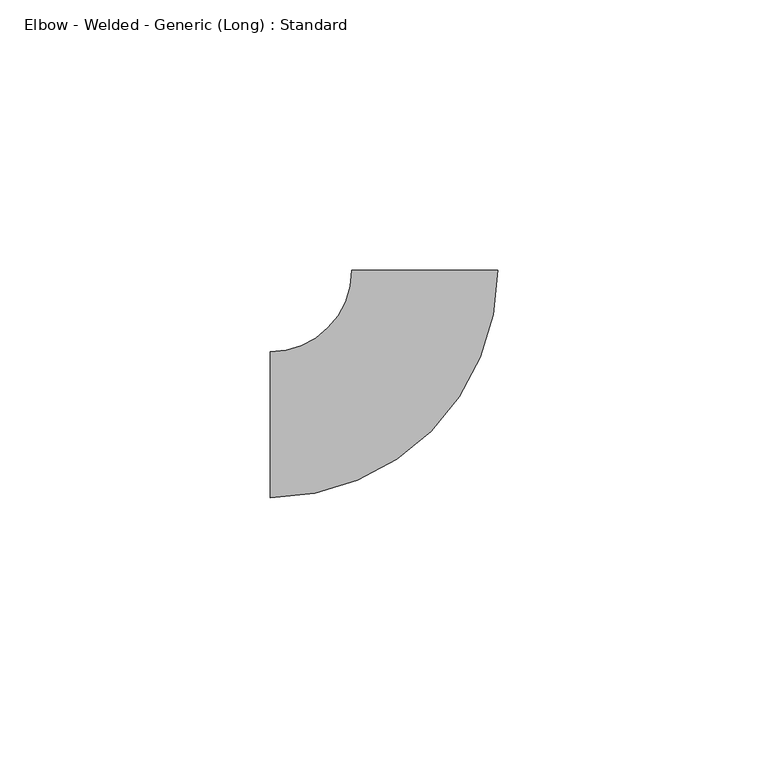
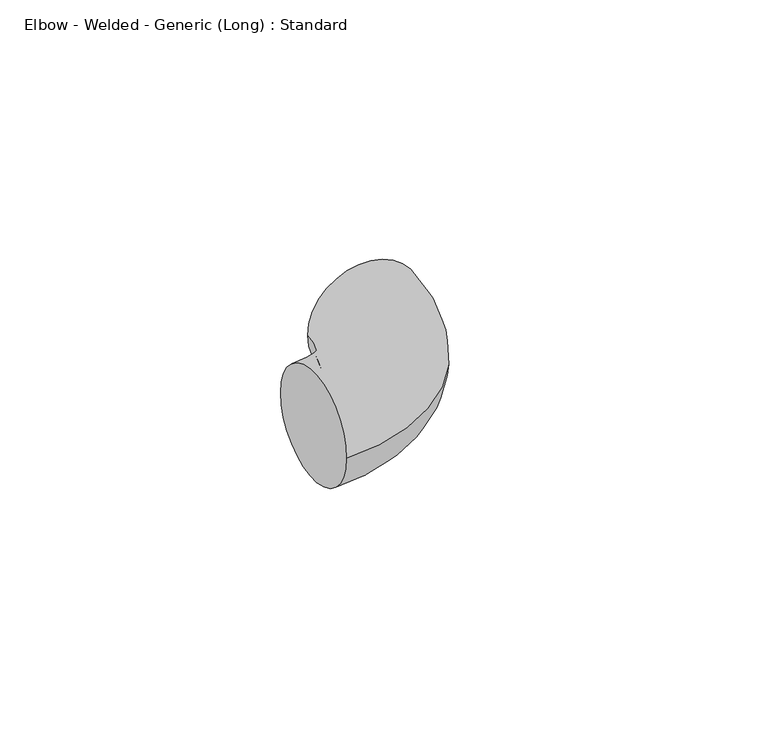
"""IFC4 building model written with IfcOpenShell, lengths in millimetres: pipe fitting geometry, Elbow - Welded - Generic (Long) : Standard."""

from ifc_helpers import new_model, si_unit, point, frame, origin, place, context, project, spatial, circle_curve, ellipse_curve, trimmed, source, transform, mapped, element, save
from ifc_brep_helpers import plane_surface, revolved_surface, advanced_brep


def elbow_welded_generic_long_standard_c0c66d0d(model_context):
    return source(origin(), model_context, "Body", "AdvancedBrep", [
        advanced_brep(
        [(-28.575, -13.49375, 0.0), (-28.575, 13.49375, 0.0), (13.4899295, 28.5768038, 0.0), (-13.4975702, 28.5731957, 0.0)],
        [
            (0, 1, circle_curve(frame((-28.575, 0.0, 0.0), z_axis=(-1.0, 0.0, 0.0), x_axis=(0.0, 1.0, 0.0)), 13.49375)),
            (1, 0, circle_curve(frame((-28.575, 0.0, 0.0), z_axis=(-1.0, 0.0, 0.0), x_axis=(0.0, 1.0, 0.0)), 13.49375)),
            (2, 3, circle_curve(frame((-0.0038203, 28.5749997, 0.0), z_axis=(-0.0001336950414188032, 0.9999999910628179, 0.0), x_axis=(-0.9999999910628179, -0.0001336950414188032, 0.0)), 13.49375)),
            (3, 2, circle_curve(frame((-0.0038203, 28.5749997, 0.0), z_axis=(-0.0001336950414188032, 0.9999999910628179, 0.0), x_axis=(-0.9999999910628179, -0.0001336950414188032, 0.0)), 13.49375)),
            (3, 1, circle_curve(frame((-28.575, 28.5711799, 0.0), z_axis=(0.0, 0.0, -1.0), x_axis=(0.0, -1.0, 0.0)), 15.0774299)),
            (0, 2, circle_curve(frame((-28.575, 28.5711799, 0.0), z_axis=(0.0, 0.0, 1.0), x_axis=(0.0, -1.0, 0.0)), 42.0649299)),
        ],
        [
            plane_surface(frame((-28.575, 0.0, 0.0), z_axis=(-1.0, 0.0, 0.0), x_axis=(0.0, 0.0, 1.0))),
            plane_surface(frame((-0.0038203, 28.5749997, 0.0), z_axis=(-0.0001336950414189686, 0.9999999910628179, 0.0), x_axis=(0.0, 0.0, 1.0))),
            revolved_surface(trimmed(ellipse_curve(frame((-28.575, 0.0, 0.0), z_axis=(-1.0, 0.0, 0.0), x_axis=(0.0, 1.0, 0.0)), 13.49375, 13.49375), [point((-28.575, -13.49375, 0.0))], [point((-28.575, 13.49375, 0.0))], True, "CARTESIAN"), (-28.575, 28.5711799, 0.0), (0.0, 0.0, 1.0)),
            revolved_surface(trimmed(ellipse_curve(frame((-28.575, 0.0, 0.0), z_axis=(-1.0, 0.0, 0.0), x_axis=(0.0, 1.0, 0.0)), 13.49375, 13.49375), [point((-28.575, 13.49375, 0.0))], [point((-28.575, -13.49375, 0.0))], True, "CARTESIAN"), (-28.575, 28.5711799, 0.0), (0.0, 0.0, 1.0)),
        ],
        [
            (0, [[1, 2]]),
            (1, [[3, 4]]),
            (2, [[5, -1, 6, -4]]),
            (3, [[-6, -2, -5, -3]]),
        ],
    ),
    ])


if __name__ == "__main__":
    model = new_model("IFC4")
    model_context = context("Model", 3, world=origin())
    ifc_project = project(units=[si_unit("LENGTHUNIT", "METRE", prefix="MILLI")], contexts=[model_context])
    site = spatial("IfcSite", under=ifc_project)
    building = spatial("IfcBuilding", under=site)
    placement = place(None, origin())
    elbow_welded_generic_long_standard_shape = elbow_welded_generic_long_standard_c0c66d0d(model_context)
    element("IfcPipeFitting", 1, ObjectType="Elbow - Welded - Generic (Long) : Standard", at=placement, inside=building, context=model_context, shape_type="MappedRepresentation", body=[
        mapped(elbow_welded_generic_long_standard_shape, transform((0.0, 0.0, 0.0), x_axis=(1.0, 0.0, 0.0), y_axis=(0.0, 1.0, 0.0), z_axis=(0.0, 0.0, 1.0))),
    ])
    save(model, "model.ifc")
